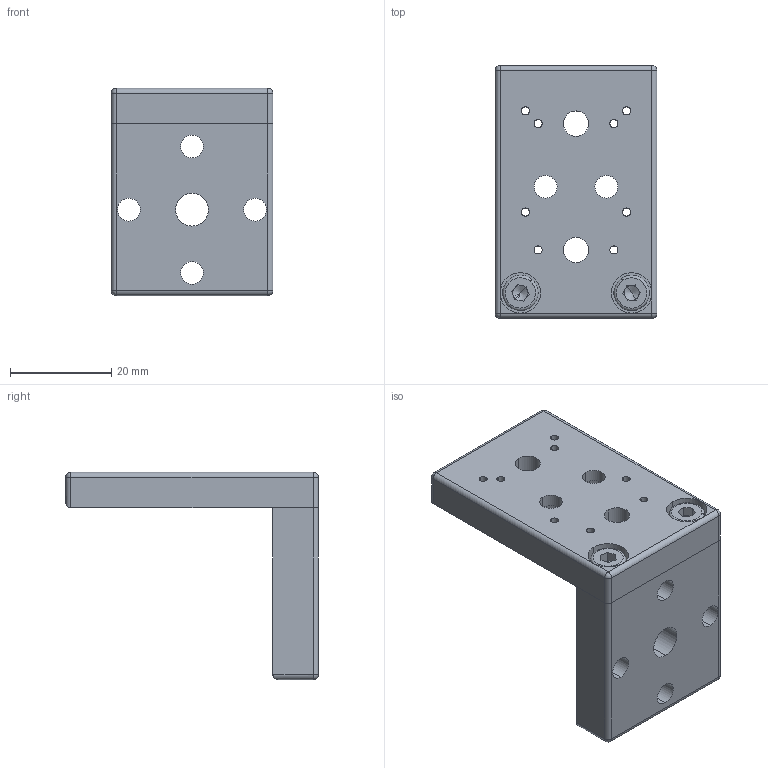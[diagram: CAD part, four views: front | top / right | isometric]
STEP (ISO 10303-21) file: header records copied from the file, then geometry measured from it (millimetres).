
FILE_DESCRIPTION (( 'STEP AP203' ), '1' );
FILE_NAME ('7MBR5眻褒假蚾啣.STEP', '2022-04-18T07:05:12', ( '' ), ( '' ), 'SwSTEP 2.0', 'SolidWorks 2018', '' );
FILE_SCHEMA (( 'CONFIG_CONTROL_DESIGN' ));
Length unit declared in the file: millimetre
Products named in the file (1): 7MBR5眻褒假蚾啣
Bounding box: 32 x 50 x 41 mm (x, y, z)
Surface area: 8765.2 mm2 (no closed solid volume)
Topology: 0 solids, 4 shells, 113 faces, 299 edges, 180 vertices
Faces by surface type: cylinder 61, plane 38, sphere 6, torus 4, cone 4
Entity records: 3572 total; most frequent: DIRECTION 657, CARTESIAN_POINT 595, ORIENTED_EDGE 551, EDGE_CURVE 289, AXIS2_PLACEMENT_3D 258, VERTEX_POINT 180, EDGE_LOOP 153, CIRCLE 144
